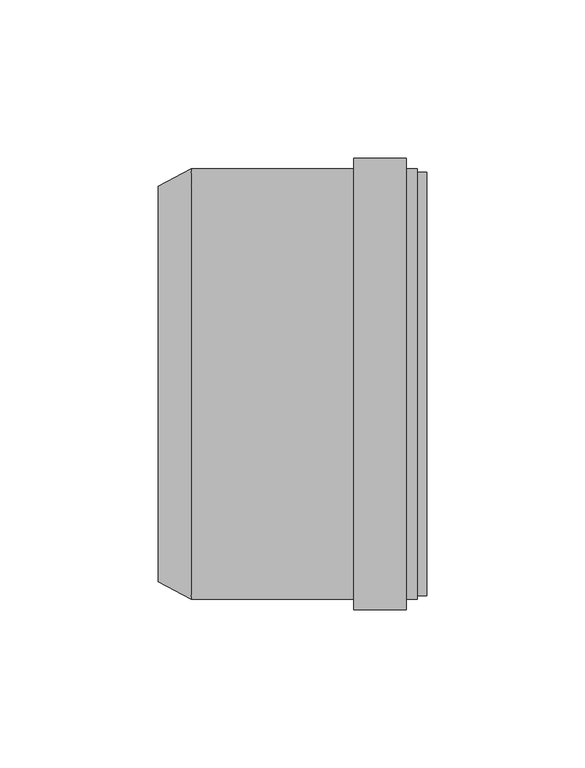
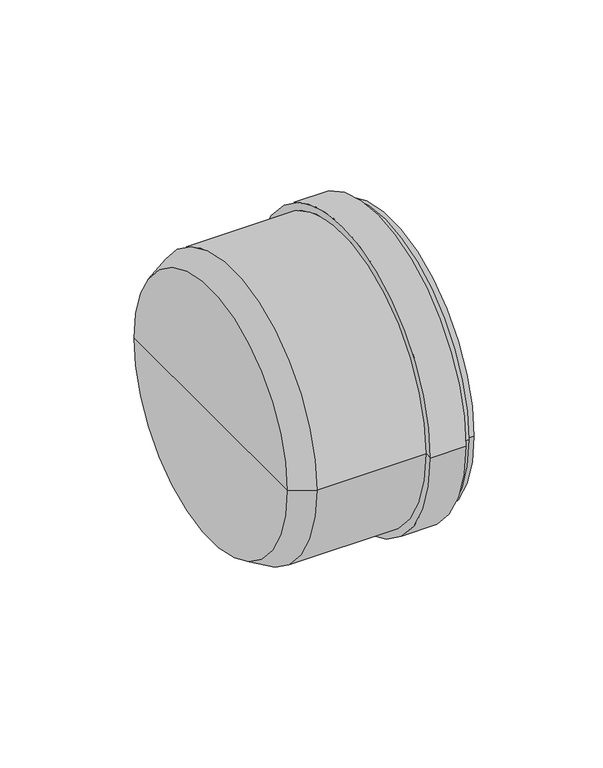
"""IFC4 building model written with IfcOpenShell, lengths in millimetres: pipe fitting geometry, pf_HTM_zatka : pf_HTM_zatka."""

import ifcopenshell
import ifcopenshell.guid

model = None  # the IFC model being written
_history = None  # IfcOwnerHistory: only IFC2X3 demands one
_inside = {}  # id of a spatial element -> (the spatial element, [elements in it])
_under = {}  # id of a project, library or spatial element -> (it, [spatial elements below it])
_declared = {}  # id of a project -> (the project, [libraries it declares])
_typed = {}  # id of a type object -> (the type object, [elements of that type])
_made_of = {}  # id of a material, layer set ... -> (it, [elements and type objects made of it])


def new_model(schema):
    """Start an empty IFC model of exactly this schema.

    Asked for "IFC4X3", IfcOpenShell would pick the latest addendum, in which some entities
    have other attributes; the version numbers below select the first issue.
    IFC2X3 requires an IfcOwnerHistory on every rooted entity: one is made here for all.
    """
    global model, _history
    if schema == "IFC4X3":
        model = ifcopenshell.file(schema_version=(4, 3, 0, 0))
    else:
        model = ifcopenshell.file(schema=schema)
    _inside.clear()
    _under.clear()
    _declared.clear()
    _typed.clear()
    _made_of.clear()
    _history = None
    if model.schema == "IFC2X3":
        org = make("IfcOrganization", Name="unknown")
        user = make(
            "IfcPersonAndOrganization",
            ThePerson=make("IfcPerson", FamilyName="unknown"),
            TheOrganization=org,
        )
        app = make(
            "IfcApplication",
            ApplicationDeveloper=org,
            Version="unknown",
            ApplicationFullName="unknown",
            ApplicationIdentifier="unknown",
        )
        _history = make(
            "IfcOwnerHistory",
            OwningUser=user,
            OwningApplication=app,
            ChangeAction="ADDED",
            CreationDate=0,
        )
    return model


def make(cls, **values):
    """One entity of the class cls with the attributes given. An attribute that is None is left unset."""
    return model.create_entity(
        cls, **{name: value for name, value in values.items() if value is not None}
    )


def rooted(cls, **values):
    """An entity with a GlobalId (a new one), such as an element, a storey or a relation."""
    return make(cls, GlobalId=ifcopenshell.guid.new(), OwnerHistory=_history, **values)


def si_unit(unit_type, name, prefix=None):
    """IfcSIUnit, for example si_unit("LENGTHUNIT", "METRE", prefix="MILLI")."""
    return make("IfcSIUnit", UnitType=unit_type, Prefix=prefix, Name=name)


def assignment(units):
    """IfcUnitAssignment: the units of a project."""
    return None if units is None else make("IfcUnitAssignment", Units=units)


def point(xyz):
    """IfcCartesianPoint."""
    return None if xyz is None else make("IfcCartesianPoint", Coordinates=xyz)


def direction(xyz):
    """IfcDirection."""
    return None if xyz is None else make("IfcDirection", DirectionRatios=xyz)


def frame(location, z_axis=None, x_axis=None):
    """IfcAxis2Placement3D, a coordinate frame: its origin and axes. An axis left out is left unset."""
    return make(
        "IfcAxis2Placement3D",
        Location=point(location),
        Axis=direction(z_axis),
        RefDirection=direction(x_axis),
    )


def origin():
    """The frame at (0, 0, 0) with its axes left unset."""
    return frame((0.0, 0.0, 0.0))


def place(relative_to, where):
    """IfcLocalPlacement: puts the frame where relative to a parent placement (None: the world)."""
    return make(
        "IfcLocalPlacement", PlacementRelTo=relative_to, RelativePlacement=where
    )


def context(
    kind, dimensions, precision=None, world=None, true_north=None, identifier=None
):
    """IfcGeometricRepresentationContext, for example the 3D "Model" context."""
    return make(
        "IfcGeometricRepresentationContext",
        ContextIdentifier=identifier,
        ContextType=kind,
        CoordinateSpaceDimension=dimensions,
        Precision=precision,
        WorldCoordinateSystem=world,
        TrueNorth=true_north,
    )


def project(units=None, contexts=None):
    """IfcProject with its units and contexts."""
    return rooted(
        "IfcProject",
        Name="project",
        RepresentationContexts=contexts,
        UnitsInContext=assignment(units),
    )


def spatial(cls, under=None, at=None, **own):
    """A site, building, storey or space (cls), placed at a placement, below another one or the project."""
    s = rooted(cls, ObjectPlacement=at, **own)
    if under is not None:
        _under.setdefault(under.id(), (under, []))[1].append(s)
    return s


def polyline(points):
    """IfcPolyline through the points."""
    return make("IfcPolyline", Points=[point(p) for p in points])


def circle_curve(where, radius):
    """IfcCircle in the frame where."""
    return make("IfcCircle", Position=where, Radius=radius)


def shape(context_of_items, identifier, shape_type, items):
    """IfcShapeRepresentation: the items that make up one representation, for example the "Body"."""
    return make(
        "IfcShapeRepresentation",
        ContextOfItems=context_of_items,
        RepresentationIdentifier=identifier,
        RepresentationType=shape_type,
        Items=items,
    )


def source(mapping_origin, context_of_items, identifier, shape_type, items):
    """IfcRepresentationMap: a shape defined once, which mapped items show again and again."""
    return make(
        "IfcRepresentationMap",
        MappingOrigin=mapping_origin,
        MappedRepresentation=shape(context_of_items, identifier, shape_type, items),
    )


def transform(
    local_origin,
    x_axis=None,
    y_axis=None,
    z_axis=None,
    scale=None,
    scale2=None,
    scale3=None,
    uniform=True,
):
    """IfcCartesianTransformationOperator3D, or its non-uniform kind. x_axis, y_axis, z_axis: its Axis1, 2, 3."""
    if uniform:
        return make(
            "IfcCartesianTransformationOperator3D",
            Axis1=direction(x_axis),
            Axis2=direction(y_axis),
            LocalOrigin=point(local_origin),
            Scale=scale,
            Axis3=direction(z_axis),
        )
    return make(
        "IfcCartesianTransformationOperator3DnonUniform",
        Axis1=direction(x_axis),
        Axis2=direction(y_axis),
        LocalOrigin=point(local_origin),
        Scale=scale,
        Axis3=direction(z_axis),
        Scale2=scale2,
        Scale3=scale3,
    )


def mapped(mapping_source, mapping_target):
    """IfcMappedItem: shows the shape of a source again, moved by a transform."""
    return make(
        "IfcMappedItem", MappingSource=mapping_source, MappingTarget=mapping_target
    )


def made_of(thing, what):
    """Note that an element or type object is made of a material, layer set ...; save() writes the relation."""
    if what is not None:
        _made_of.setdefault(what.id(), (what, []))[1].append(thing)
    return thing


def element(
    cls,
    number,
    at=None,
    inside=None,
    cuts=None,
    type_object=None,
    material=None,
    context=None,
    identifier="Body",
    shape_type=None,
    held_by="IfcProductDefinitionShape",
    body=None,
    shapes=None,
    **own,
):
    """One element of the class cls, such as IfcWall. Its Tag is "e" and its number.

    at: its placement. inside: the storey or other place that contains it. cuts: it is an
    opening in that element (IfcRelVoidsElement). A single representation is given by context,
    identifier, shape_type and body (its items); several are given by shapes. held_by: the class
    of the entity that holds the representations. save() writes the other relations.
    """
    e = rooted(cls, Tag="e%d" % number, ObjectPlacement=at, **own)
    if body is not None:
        shapes = [shape(context, identifier, shape_type, body)]
    if shapes is not None:
        e.Representation = make(held_by, Representations=shapes)
    if inside is not None:
        _inside.setdefault(inside.id(), (inside, []))[1].append(e)
    if cuts is not None:
        rooted(
            "IfcRelVoidsElement", RelatingBuildingElement=cuts, RelatedOpeningElement=e
        )
    if type_object is not None:
        _typed.setdefault(type_object.id(), (type_object, []))[1].append(e)
    return made_of(e, material)


def aggregate(whole, parts):
    """IfcRelAggregates: a whole, such as a stair, and the parts it consists of."""
    return rooted("IfcRelAggregates", RelatingObject=whole, RelatedObjects=parts)


def save(model, path):
    """Write the relations noted so far, then the file.

    IfcRelAggregates (storeys below a building ...), IfcRelContainedInSpatialStructure (elements
    in a storey), IfcRelDefinesByType, IfcRelAssociatesMaterial and IfcRelDeclares: one each for
    every whole, place, type object, material and project.
    """
    for whole, parts in _under.values():
        aggregate(whole, parts)
    for where, things in _inside.values():
        rooted(
            "IfcRelContainedInSpatialStructure",
            RelatedElements=things,
            RelatingStructure=where,
        )
    for kind, things in _typed.values():
        rooted("IfcRelDefinesByType", RelatedObjects=things, RelatingType=kind)
    for what, things in _made_of.values():
        rooted("IfcRelAssociatesMaterial", RelatedObjects=things, RelatingMaterial=what)
    for by, libraries in _declared.values():
        rooted("IfcRelDeclares", RelatingContext=by, RelatedDefinitions=libraries)
    model.write(path)


def plane_surface(at):
    """IfcPlane: the flat surface through the origin of the frame at, square to its z axis."""
    return make("IfcPlane", Position=at)


def cylinder_surface(at, radius):
    """IfcCylindricalSurface: all points at the distance radius from the z axis of the frame at."""
    return make("IfcCylindricalSurface", Position=at, Radius=radius)


def revolved_surface(curve, axis_point, axis_direction):
    """IfcSurfaceOfRevolution: the curve turned about the line through axis_point along axis_direction."""
    return make(
        "IfcSurfaceOfRevolution",
        SweptCurve=make("IfcArbitraryOpenProfileDef", ProfileType="CURVE", Curve=curve),
        AxisPosition=make("IfcAxis1Placement", Location=point(axis_point), Axis=direction(axis_direction)),
    )


def advanced_brep(points, edges, surfaces, faces):
    """IfcAdvancedBrep: a solid bounded by faces that lie on surfaces and meet in shared edges.

    An edge is (start, end): straight between two places in points (the first is 0);
    or (start, end, curve); or (start, end, curve, False) where it runs against its curve.
    A face is (place in surfaces, loops), or (place, loops, False) where it looks against
    its surface's normal. A loop lists edges by number (the first is 1), with a minus sign
    where the edge is run from its end to its start. The first loop is the outer one.
    """
    corners = [point(p) for p in points]
    vertices = [make("IfcVertexPoint", VertexGeometry=c) for c in corners]
    made = []
    for start, end, *more in edges:
        made.append(
            make(
                "IfcEdgeCurve",
                EdgeStart=vertices[start],
                EdgeEnd=vertices[end],
                EdgeGeometry=more[0] if more else make("IfcPolyline", Points=[corners[start], corners[end]]),
                SameSense=more[1] if len(more) > 1 else True,
            )
        )
    hull = []
    for where, loops, *sense in faces:
        bounds = []
        for j, loop in enumerate(loops):
            ring = [make("IfcOrientedEdge", EdgeElement=made[abs(k) - 1], Orientation=k > 0) for k in loop]
            bounds.append(
                make(
                    "IfcFaceOuterBound" if j == 0 else "IfcFaceBound",
                    Bound=make("IfcEdgeLoop", EdgeList=ring),
                    Orientation=True,
                )
            )
        hull.append(make("IfcAdvancedFace", Bounds=bounds, FaceSurface=surfaces[where], SameSense=sense[0] if sense else True))
    return make("IfcAdvancedBrep", Outer=make("IfcClosedShell", CfsFaces=hull))


def pipe_fitting_71ddc9da(model_context):
    return source(origin(), model_context, "Body", "AdvancedBrep", [
        advanced_brep(
        [(-82.0, -62.5, 0.0), (-82.0, 62.5, 0.0), (-71.5, 68.1, 0.0), (-71.5, -68.1, 0.0), (-82.0, 0.0, 0.0), (0.0, -68.1, 0.0), (0.0, 68.1, 0.0), (0.0, 0.0, 0.0), (-3.4, -68.1, 0.0), (-3.4, 68.1, 0.0), (-3.4, -71.5, 0.0), (-3.4, 71.5, 0.0), (-20.0, -71.5, 0.0), (-20.0, 71.5, 0.0), (-20.0, -68.1, 0.0), (-20.0, 68.1, 0.0)],
        [
            (0, 1, circle_curve(frame((-82.0, 0.0, 0.0), z_axis=(1.0, 0.0, 0.0), x_axis=(0.0, 1.0, 0.0)), 62.5)),
            (1, 2),
            (2, 3, circle_curve(frame((-71.5, 0.0, 0.0), z_axis=(-1.0, 0.0, 0.0), x_axis=(0.0, 1.0, 0.0)), 68.1)),
            (3, 0),
            (1, 0, circle_curve(frame((-82.0, 0.0, 0.0), z_axis=(1.0, 0.0, 0.0), x_axis=(0.0, 1.0, 0.0)), 62.5)),
            (3, 2, circle_curve(frame((-71.5, 0.0, 0.0), z_axis=(-1.0, 0.0, 0.0), x_axis=(0.0, 1.0, 0.0)), 68.1)),
            (4, 1),
            (0, 4),
            (5, 6, circle_curve(frame((0.0, 0.0, 0.0), z_axis=(1.0, 0.0, 0.0), x_axis=(0.0, 1.0, 0.0)), 68.1)),
            (6, 7),
            (7, 5),
            (6, 5, circle_curve(frame((0.0, 0.0, 0.0), z_axis=(1.0, 0.0, 0.0), x_axis=(0.0, 1.0, 0.0)), 68.1)),
            (8, 9, circle_curve(frame((-3.4, 0.0, 0.0), z_axis=(1.0, 0.0, 0.0), x_axis=(0.0, 1.0, 0.0)), 68.1)),
            (9, 6),
            (5, 8),
            (9, 8, circle_curve(frame((-3.4, 0.0, 0.0), z_axis=(1.0, 0.0, 0.0), x_axis=(0.0, 1.0, 0.0)), 68.1)),
            (10, 11, circle_curve(frame((-3.4, 0.0, 0.0), z_axis=(1.0, 0.0, 0.0), x_axis=(0.0, 1.0, 0.0)), 71.5)),
            (11, 9),
            (8, 10),
            (11, 10, circle_curve(frame((-3.4, 0.0, 0.0), z_axis=(1.0, 0.0, 0.0), x_axis=(0.0, 1.0, 0.0)), 71.5)),
            (12, 13, circle_curve(frame((-20.0, 0.0, 0.0), z_axis=(1.0, 0.0, 0.0), x_axis=(0.0, 1.0, 0.0)), 71.5)),
            (13, 11),
            (10, 12),
            (13, 12, circle_curve(frame((-20.0, 0.0, 0.0), z_axis=(1.0, 0.0, 0.0), x_axis=(0.0, 1.0, 0.0)), 71.5)),
            (14, 15, circle_curve(frame((-20.0, 0.0, 0.0), z_axis=(1.0, 0.0, 0.0), x_axis=(0.0, 1.0, 0.0)), 68.1)),
            (15, 13),
            (12, 14),
            (15, 14, circle_curve(frame((-20.0, 0.0, 0.0), z_axis=(1.0, 0.0, 0.0), x_axis=(0.0, 1.0, 0.0)), 68.1)),
            (2, 15),
            (14, 3),
        ],
        [
            revolved_surface(polyline([(-71.5, 68.1, 0.0), (-82.0, 62.5, 0.0)]), (-82.0, 0.0, 0.0), (-1.0, 0.0, 0.0)),
            plane_surface(frame((-82.0, 0.0, 0.0), z_axis=(-1.0, 0.0, 0.0), x_axis=(0.0, 1.0, 0.0))),
            plane_surface(frame((0.0, 0.0, 0.0), z_axis=(1.0, 0.0, 0.0), x_axis=(0.0, 1.0, 0.0))),
            cylinder_surface(frame((-82.0, 0.0, 0.0), z_axis=(-1.0, 0.0, 0.0), x_axis=(0.0, 1.0, 0.0)), 68.1),
            plane_surface(frame((-3.4, 0.0, 0.0), z_axis=(1.0, 0.0, 0.0), x_axis=(0.0, 1.0, 0.0))),
            cylinder_surface(frame((-82.0, 0.0, 0.0), z_axis=(-1.0, 0.0, 0.0), x_axis=(0.0, 1.0, 0.0)), 71.5),
            plane_surface(frame((-20.0, 0.0, 0.0), z_axis=(-1.0, 0.0, 0.0), x_axis=(0.0, 1.0, 0.0))),
        ],
        [
            (0, [[1, 2, 3, 4]]),
            (0, [[5, -4, 6, -2]]),
            (1, [[7, -1, 8]]),
            (1, [[-8, -5, -7]]),
            (2, [[9, 10, 11]]),
            (2, [[12, -11, -10]]),
            (3, [[13, 14, -9, 15]]),
            (3, [[16, -15, -12, -14]]),
            (4, [[17, 18, -13, 19]]),
            (4, [[20, -19, -16, -18]]),
            (5, [[21, 22, -17, 23]]),
            (5, [[24, -23, -20, -22]]),
            (6, [[25, 26, -21, 27]]),
            (6, [[28, -27, -24, -26]]),
            (3, [[-3, 29, -25, 30]]),
            (3, [[-6, -30, -28, -29]]),
        ],
    ),
        advanced_brep(
        [(-49.0, 0.0, 0.0), (-49.0, 62.5, 0.0), (-49.0, -62.5, 0.0), (3.1, -66.94, 0.0), (3.1, 66.94, 0.0), (3.1, 0.0, 0.0), (0.0, -66.94, 0.0), (0.0, 66.94, 0.0), (0.0, -63.84, 0.0), (0.0, 63.84, 0.0), (-45.0, -63.84, 0.0), (-45.0, 63.84, 0.0)],
        [
            (0, 1),
            (1, 2, circle_curve(frame((-49.0, 0.0, 0.0), z_axis=(-1.0, 0.0, 0.0), x_axis=(0.0, 1.0, 0.0)), 62.5)),
            (2, 0),
            (2, 1, circle_curve(frame((-49.0, 0.0, 0.0), z_axis=(-1.0, 0.0, 0.0), x_axis=(0.0, 1.0, 0.0)), 62.5)),
            (3, 4, circle_curve(frame((3.1, 0.0, 0.0), z_axis=(1.0, 0.0, 0.0), x_axis=(0.0, 1.0, 0.0)), 66.94)),
            (4, 5),
            (5, 3),
            (4, 3, circle_curve(frame((3.1, 0.0, 0.0), z_axis=(1.0, 0.0, 0.0), x_axis=(0.0, 1.0, 0.0)), 66.94)),
            (6, 7, circle_curve(frame((0.0, 0.0, 0.0), z_axis=(1.0, 0.0, 0.0), x_axis=(0.0, 1.0, 0.0)), 66.94)),
            (7, 4),
            (3, 6),
            (7, 6, circle_curve(frame((0.0, 0.0, 0.0), z_axis=(1.0, 0.0, 0.0), x_axis=(0.0, 1.0, 0.0)), 66.94)),
            (8, 9, circle_curve(frame((0.0, 0.0, 0.0), z_axis=(1.0, 0.0, 0.0), x_axis=(0.0, 1.0, 0.0)), 63.84)),
            (9, 7),
            (6, 8),
            (9, 8, circle_curve(frame((0.0, 0.0, 0.0), z_axis=(1.0, 0.0, 0.0), x_axis=(0.0, 1.0, 0.0)), 63.84)),
            (10, 11, circle_curve(frame((-45.0, 0.0, 0.0), z_axis=(1.0, 0.0, 0.0), x_axis=(0.0, 1.0, 0.0)), 63.84)),
            (11, 9),
            (8, 10),
            (11, 10, circle_curve(frame((-45.0, 0.0, 0.0), z_axis=(1.0, 0.0, 0.0), x_axis=(0.0, 1.0, 0.0)), 63.84)),
            (1, 11),
            (10, 2),
        ],
        [
            plane_surface(frame((-49.0, 0.0, 0.0), z_axis=(-1.0, 0.0, 0.0), x_axis=(0.0, 1.0, 0.0))),
            plane_surface(frame((3.1, 0.0, 0.0), z_axis=(1.0, 0.0, 0.0), x_axis=(0.0, 1.0, 0.0))),
            cylinder_surface(frame((-48.0241529, 0.0, 0.0), z_axis=(-1.0, 0.0, 0.0), x_axis=(0.0, 1.0, 0.0)), 66.94),
            plane_surface(frame((0.0, 0.0, 0.0), z_axis=(-1.0, 0.0, 0.0), x_axis=(0.0, 1.0, 0.0))),
            cylinder_surface(frame((-48.0241529, 0.0, 0.0), z_axis=(-1.0, 0.0, 0.0), x_axis=(0.0, 1.0, 0.0)), 63.84),
            revolved_surface(polyline([(-45.0, 63.84, 0.0), (-49.0, 62.5, 0.0)]), (-48.0241529, 0.0, 0.0), (-1.0, 0.0, 0.0)),
        ],
        [
            (0, [[1, 2, 3]]),
            (0, [[-3, 4, -1]]),
            (1, [[5, 6, 7]]),
            (1, [[8, -7, -6]]),
            (2, [[9, 10, -5, 11]]),
            (2, [[12, -11, -8, -10]]),
            (3, [[13, 14, -9, 15]]),
            (3, [[16, -15, -12, -14]]),
            (4, [[17, 18, -13, 19]]),
            (4, [[20, -19, -16, -18]]),
            (5, [[-2, 21, -17, 22]]),
            (5, [[-4, -22, -20, -21]]),
        ],
    ),
    ])


if __name__ == "__main__":
    model = new_model("IFC4")
    model_context = context("Model", 3, world=origin())
    ifc_project = project(units=[si_unit("LENGTHUNIT", "METRE", prefix="MILLI")], contexts=[model_context])
    site = spatial("IfcSite", under=ifc_project)
    building = spatial("IfcBuilding", under=site)
    placement = place(None, origin())
    pipe_fitting_shape = pipe_fitting_71ddc9da(model_context)
    element("IfcPipeFitting", 1, ObjectType="pf_HTM_zatka : pf_HTM_zatka", at=placement, inside=building, context=model_context, shape_type="MappedRepresentation", body=[
        mapped(pipe_fitting_shape, transform((0.0, 0.0, 0.0), x_axis=(1.0, 0.0, 0.0), y_axis=(0.0, 1.0, 0.0), z_axis=(0.0, 0.0, 1.0))),
    ])
    save(model, "model.ifc")
